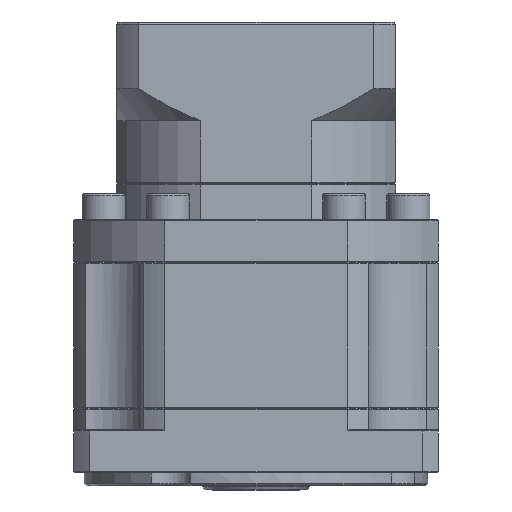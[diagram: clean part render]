
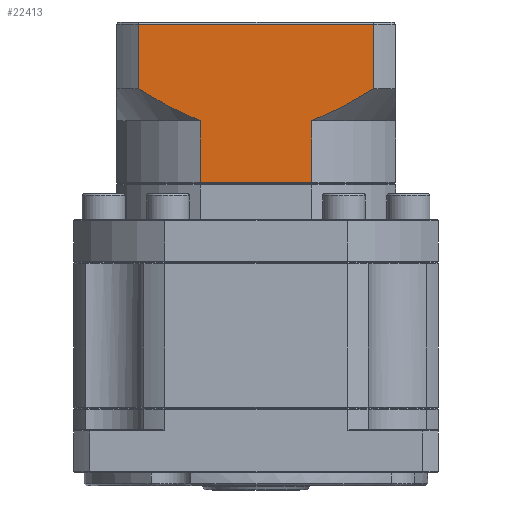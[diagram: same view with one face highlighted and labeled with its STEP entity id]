
A CAD part, front view. The second image highlights one B-rep face of the part: STEP entity #22413.
In plain terms, the highlighted planar face has unit normal (0, -1, 0).
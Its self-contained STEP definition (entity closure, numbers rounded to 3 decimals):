
#501 = EDGE_CURVE ( 'NONE', #45393, #89264, #61935, .T. ) ;
#1857 = B_SPLINE_CURVE_WITH_KNOTS ( 'NONE', 3,
 ( #33209, #4489, #71966, #21527, #80443, #30036, #88878, #38550 ),
 .UNSPECIFIED., .F., .F.,
 ( 4, 2, 2, 4 ),
 ( 0.059, 0.063, 0.067, 0.075 ),
 .UNSPECIFIED. ) ;
#3570 = VERTEX_POINT ( 'NONE', #104394 ) ;
#3594 = LINE ( 'NONE', #75200, #87998 ) ;
#4489 = CARTESIAN_POINT ( 'NONE',  ( -45.292, -10.417, 17.444 ) ) ;
#6223 = VERTEX_POINT ( 'NONE', #92346 ) ;
#6676 = VECTOR ( 'NONE', #97475, 1000. ) ;
#7251 = EDGE_CURVE ( 'NONE', #45393, #90480, #34421, .T. ) ;
#8454 = CARTESIAN_POINT ( 'NONE',  ( -98.926, -10.417, 33.178 ) ) ;
#11558 = DIRECTION ( 'NONE',  ( 0., 0., 1. ) ) ;
#13224 = CARTESIAN_POINT ( 'NONE',  ( -84.53, -10.417, 10.678 ) ) ;
#14543 = VECTOR ( 'NONE', #67859, 1000. ) ;
#15410 = CARTESIAN_POINT ( 'NONE',  ( -39.04, -10.417, -3.734 ) ) ;
#16690 = EDGE_CURVE ( 'NONE', #6223, #79454, #1857, .T. ) ;
#19587 = EDGE_CURVE ( 'NONE', #3570, #35021, #93570, .T. ) ;
#19925 = EDGE_CURVE ( 'NONE', #56782, #35021, #107872, .T. ) ;
#20870 = VECTOR ( 'NONE', #11558, 1000. ) ;
#21527 = CARTESIAN_POINT ( 'NONE',  ( -48.779, -10.417, 15.344 ) ) ;
#21762 = CARTESIAN_POINT ( 'NONE',  ( -87.072, -10.417, 11.694 ) ) ;
#22413 = ADVANCED_FACE ( 'NONE', ( #56922 ), #46963, .F. ) ;
#23994 = AXIS2_PLACEMENT_3D ( 'NONE', #80762, #30364, #89216 ) ;
#24690 = CARTESIAN_POINT ( 'NONE',  ( -84.53, -10.417, 10.678 ) ) ;
#24795 = DIRECTION ( 'NONE',  ( 0., 0., -1. ) ) ;
#26428 = VECTOR ( 'NONE', #65873, 1000. ) ;
#26712 = CARTESIAN_POINT ( 'NONE',  ( -98.926, -10.417, 18.178 ) ) ;
#27966 = CARTESIAN_POINT ( 'NONE',  ( -58.549, -10.417, 10.678 ) ) ;
#29191 = LINE ( 'NONE', #73165, #6676 ) ;
#29874 = CARTESIAN_POINT ( 'NONE',  ( -85.173, -10.417, 10.916 ) ) ;
#30036 = CARTESIAN_POINT ( 'NONE',  ( -53.559, -10.417, 12.765 ) ) ;
#30126 = EDGE_CURVE ( 'NONE', #90480, #56782, #38036, .T. ) ;
#30252 = CARTESIAN_POINT ( 'NONE',  ( -89.549, -10.417, 12.818 ) ) ;
#30364 = DIRECTION ( 'NONE',  ( 0., 1., 0. ) ) ;
#32453 = DIRECTION ( 'NONE',  ( 1., 0., 0. ) ) ;
#33209 = CARTESIAN_POINT ( 'NONE',  ( -44.153, -10.417, 18.178 ) ) ;
#34098 = CARTESIAN_POINT ( 'NONE',  ( -58.549, -10.417, -3.734 ) ) ;
#34421 = LINE ( 'NONE', #67500, #14543 ) ;
#35021 = VERTEX_POINT ( 'NONE', #8454 ) ;
#36219 = ORIENTED_EDGE ( 'NONE', *, *, #30126, .F. ) ;
#38036 = B_SPLINE_CURVE_WITH_KNOTS ( 'NONE', 3,
 ( #13224, #29874, #38399, #21762, #80657, #30252, #89110, #38760, #97591, #47219 ),
 .UNSPECIFIED., .F., .F.,
 ( 4, 2, 2, 2, 4 ),
 ( 0.101, 0.104, 0.106, 0.11, 0.118 ),
 .UNSPECIFIED. ) ;
#38399 = CARTESIAN_POINT ( 'NONE',  ( -85.811, -10.417, 11.168 ) ) ;
#38550 = CARTESIAN_POINT ( 'NONE',  ( -58.549, -10.417, 10.678 ) ) ;
#38760 = CARTESIAN_POINT ( 'NONE',  ( -94.342, -10.417, 15.328 ) ) ;
#40209 = ORIENTED_EDGE ( 'NONE', *, *, #108824, .F. ) ;
#41486 = EDGE_CURVE ( 'NONE', #3570, #6223, #29191, .T. ) ;
#44533 = CARTESIAN_POINT ( 'NONE',  ( -84.53, -10.417, -3.734 ) ) ;
#45393 = VERTEX_POINT ( 'NONE', #44533 ) ;
#45767 = ORIENTED_EDGE ( 'NONE', *, *, #19587, .T. ) ;
#46963 = PLANE ( 'NONE',  #23994 ) ;
#47219 = CARTESIAN_POINT ( 'NONE',  ( -98.926, -10.417, 18.178 ) ) ;
#47895 = EDGE_LOOP ( 'NONE', ( #104478, #45767, #60999, #36219, #56866, #100615, #40209, #90112 ) ) ;
#56782 = VERTEX_POINT ( 'NONE', #26712 ) ;
#56866 = ORIENTED_EDGE ( 'NONE', *, *, #7251, .F. ) ;
#56922 = FACE_OUTER_BOUND ( 'NONE', #47895, .T. ) ;
#57420 = CARTESIAN_POINT ( 'NONE',  ( -98.926, -10.417, 33.178 ) ) ;
#60999 = ORIENTED_EDGE ( 'NONE', *, *, #19925, .F. ) ;
#61935 = LINE ( 'NONE', #15410, #93438 ) ;
#65873 = DIRECTION ( 'NONE',  ( -1., 0., 0. ) ) ;
#67500 = CARTESIAN_POINT ( 'NONE',  ( -84.53, -10.417, 10.678 ) ) ;
#67859 = DIRECTION ( 'NONE',  ( 0., 0., 1. ) ) ;
#70531 = CARTESIAN_POINT ( 'NONE',  ( -98.926, -10.417, 15.678 ) ) ;
#71966 = CARTESIAN_POINT ( 'NONE',  ( -46.443, -10.417, 16.729 ) ) ;
#73165 = CARTESIAN_POINT ( 'NONE',  ( -44.153, -10.417, 15.678 ) ) ;
#75200 = CARTESIAN_POINT ( 'NONE',  ( -58.549, -10.417, 10.678 ) ) ;
#79454 = VERTEX_POINT ( 'NONE', #27966 ) ;
#80443 = CARTESIAN_POINT ( 'NONE',  ( -49.965, -10.417, 14.674 ) ) ;
#80657 = CARTESIAN_POINT ( 'NONE',  ( -87.696, -10.417, 11.968 ) ) ;
#80762 = CARTESIAN_POINT ( 'NONE',  ( -39.04, -10.417, 33.678 ) ) ;
#87998 = VECTOR ( 'NONE', #24795, 1000. ) ;
#88878 = CARTESIAN_POINT ( 'NONE',  ( -56.01, -10.417, 11.62 ) ) ;
#89110 = CARTESIAN_POINT ( 'NONE',  ( -90.761, -10.417, 13.423 ) ) ;
#89216 = DIRECTION ( 'NONE',  ( -1., 0., 0. ) ) ;
#89264 = VERTEX_POINT ( 'NONE', #34098 ) ;
#90112 = ORIENTED_EDGE ( 'NONE', *, *, #16690, .F. ) ;
#90480 = VERTEX_POINT ( 'NONE', #24690 ) ;
#92346 = CARTESIAN_POINT ( 'NONE',  ( -44.153, -10.417, 18.178 ) ) ;
#93438 = VECTOR ( 'NONE', #32453, 1000. ) ;
#93570 = LINE ( 'NONE', #57420, #26428 ) ;
#97475 = DIRECTION ( 'NONE',  ( 0., 0., -1. ) ) ;
#97591 = CARTESIAN_POINT ( 'NONE',  ( -96.657, -10.417, 16.716 ) ) ;
#100615 = ORIENTED_EDGE ( 'NONE', *, *, #501, .T. ) ;
#104394 = CARTESIAN_POINT ( 'NONE',  ( -44.153, -10.417, 33.178 ) ) ;
#104478 = ORIENTED_EDGE ( 'NONE', *, *, #41486, .F. ) ;
#107872 = LINE ( 'NONE', #70531, #20870 ) ;
#108824 = EDGE_CURVE ( 'NONE', #79454, #89264, #3594, .T. ) ;
